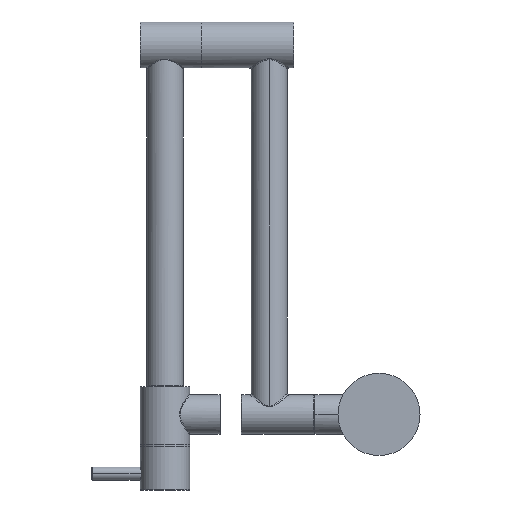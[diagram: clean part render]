
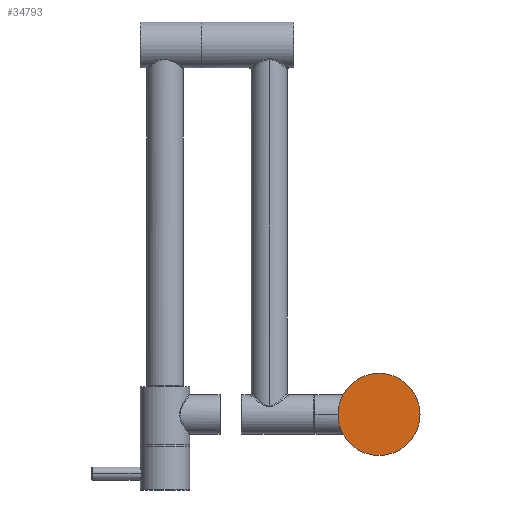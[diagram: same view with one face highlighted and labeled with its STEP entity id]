
A CAD part, front view. The second image highlights one B-rep face of the part: STEP entity #34793.
In plain terms, the highlighted planar face has unit normal (0, -1, 0).
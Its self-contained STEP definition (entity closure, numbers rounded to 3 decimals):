
#557 = AXIS2_PLACEMENT_3D ( 'NONE', #24481, #16858, #8604 ) ;
#4933 = PLANE ( 'NONE',  #33403 ) ;
#5594 = EDGE_CURVE ( 'NONE', #19438, #23586, #40131, .T. ) ;
#7304 = DIRECTION ( 'NONE',  ( 0., 1., 0. ) ) ;
#8604 = DIRECTION ( 'NONE',  ( 1., 0., 0. ) ) ;
#8753 = AXIS2_PLACEMENT_3D ( 'NONE', #46243, #7304, #46069 ) ;
#8812 = DIRECTION ( 'NONE',  ( 0., 1., 0. ) ) ;
#10129 = CARTESIAN_POINT ( 'NONE',  ( -25., -4.5, 0. ) ) ;
#10622 = ORIENTED_EDGE ( 'NONE', *, *, #5594, .F. ) ;
#12523 = DIRECTION ( 'NONE',  ( 0., 0., -1. ) ) ;
#15716 = CARTESIAN_POINT ( 'NONE',  ( 25., -4.5, 0. ) ) ;
#16229 = CARTESIAN_POINT ( 'NONE',  ( 0., -4.5, 0. ) ) ;
#16858 = DIRECTION ( 'NONE',  ( 0., 1., 0. ) ) ;
#17859 = EDGE_LOOP ( 'NONE', ( #10622, #40409 ) ) ;
#19438 = VERTEX_POINT ( 'NONE', #15716 ) ;
#20277 = CIRCLE ( 'NONE', #8753, 25. ) ;
#23586 = VERTEX_POINT ( 'NONE', #10129 ) ;
#24481 = CARTESIAN_POINT ( 'NONE',  ( 0., -4.5, 0. ) ) ;
#32655 = EDGE_CURVE ( 'NONE', #23586, #19438, #20277, .T. ) ;
#33403 = AXIS2_PLACEMENT_3D ( 'NONE', #16229, #8812, #12523 ) ;
#34793 = ADVANCED_FACE ( 'NONE', ( #42508 ), #4933, .F. ) ;
#40131 = CIRCLE ( 'NONE', #557, 25. ) ;
#40409 = ORIENTED_EDGE ( 'NONE', *, *, #32655, .F. ) ;
#42508 = FACE_OUTER_BOUND ( 'NONE', #17859, .T. ) ;
#46069 = DIRECTION ( 'NONE',  ( 1., 0., 0. ) ) ;
#46243 = CARTESIAN_POINT ( 'NONE',  ( 0., -4.5, 0. ) ) ;
